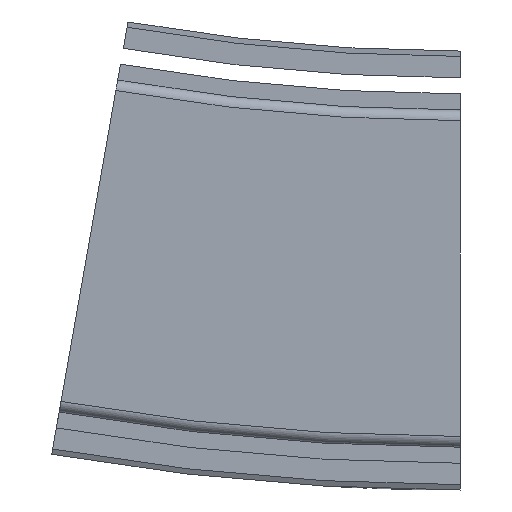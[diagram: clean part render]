
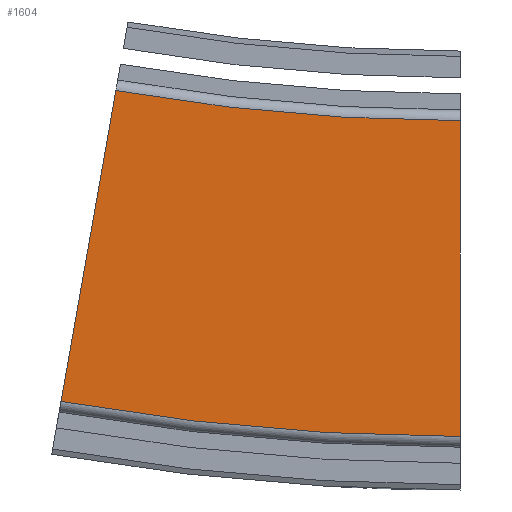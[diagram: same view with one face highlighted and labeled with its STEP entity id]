
A CAD part, front view. The second image highlights one B-rep face of the part: STEP entity #1604.
In plain terms, the highlighted planar face has unit normal (0, -1, 0).
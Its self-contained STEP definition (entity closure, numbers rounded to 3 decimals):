
#140=PLANE('',#1768);
#227=FACE_OUTER_BOUND('',#319,.T.);
#319=EDGE_LOOP('',(#1408,#1409,#1410,#1411));
#353=CIRCLE('',#1701,429.5);
#388=CIRCLE('',#1765,370.5);
#512=LINE('',#7352,#638);
#513=LINE('',#7353,#639);
#638=VECTOR('',#2170,10.);
#639=VECTOR('',#2171,10.);
#738=VERTEX_POINT('',#7171);
#740=VERTEX_POINT('',#7174);
#794=VERTEX_POINT('',#7340);
#795=VERTEX_POINT('',#7342);
#939=EDGE_CURVE('',#738,#740,#353,.T.);
#1024=EDGE_CURVE('',#794,#795,#388,.T.);
#1028=EDGE_CURVE('',#794,#738,#512,.T.);
#1029=EDGE_CURVE('',#740,#795,#513,.T.);
#1408=ORIENTED_EDGE('',*,*,#1028,.F.);
#1409=ORIENTED_EDGE('',*,*,#1024,.T.);
#1410=ORIENTED_EDGE('',*,*,#1029,.F.);
#1411=ORIENTED_EDGE('',*,*,#939,.F.);
#1604=ADVANCED_FACE('',(#227),#140,.T.);
#1701=AXIS2_PLACEMENT_3D('',#7175,#1982,#1983);
#1765=AXIS2_PLACEMENT_3D('',#7344,#2160,#2161);
#1768=AXIS2_PLACEMENT_3D('',#7351,#2168,#2169);
#1982=DIRECTION('center_axis',(0.,1.,0.));
#1983=DIRECTION('ref_axis',(0.,0.,-1.));
#2160=DIRECTION('center_axis',(0.,1.,0.));
#2161=DIRECTION('ref_axis',(0.,0.,-1.));
#2168=DIRECTION('center_axis',(0.,-1.,0.));
#2169=DIRECTION('ref_axis',(0.,0.,-1.));
#2170=DIRECTION('',(0.,0.,-1.));
#2171=DIRECTION('',(0.174,0.,0.985));
#7171=CARTESIAN_POINT('',(0.,-73.,-29.5));
#7174=CARTESIAN_POINT('',(-74.582,-73.,-22.975));
#7175=CARTESIAN_POINT('Origin',(0.,-73.,
400.));
#7340=CARTESIAN_POINT('',(0.,-73.,29.5));
#7342=CARTESIAN_POINT('',(-64.337,-73.,35.129));
#7344=CARTESIAN_POINT('Origin',(0.,-73.,
400.));
#7351=CARTESIAN_POINT('Origin',(0.,-73.,-5.5));
#7352=CARTESIAN_POINT('',(0.,-73.,5.5));
#7353=CARTESIAN_POINT('',(-70.414,-73.,0.66));
